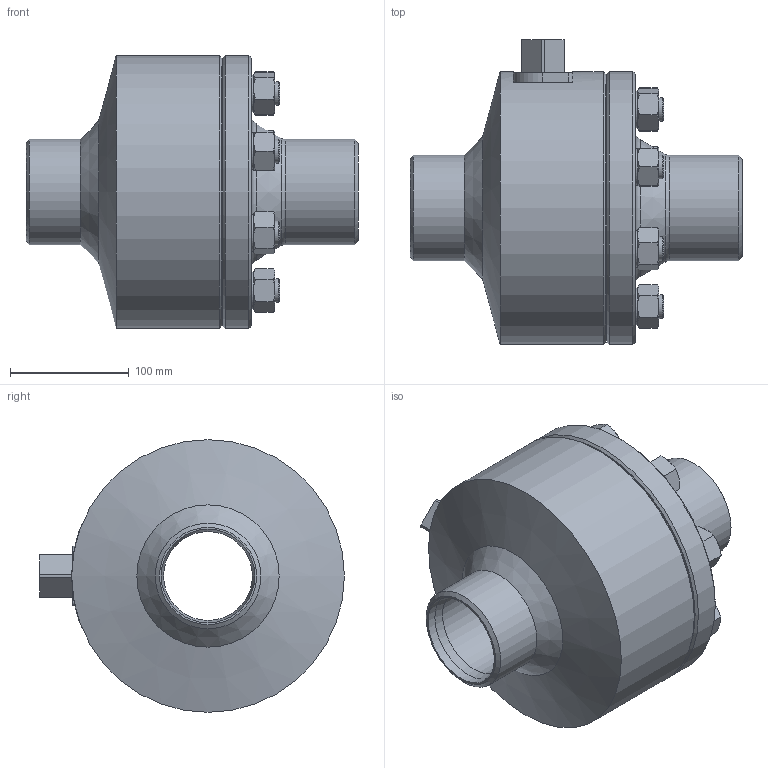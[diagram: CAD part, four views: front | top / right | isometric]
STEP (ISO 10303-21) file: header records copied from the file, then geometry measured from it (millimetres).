
FILE_DESCRIPTION((''),'2;1');
FILE_NAME('C:\Users\Bartek\Desktop\Nowy folder (2)\Nowy folder (22)\WK5b\WK5bc DN80 PN100_Substitute_1.stp','2024-09-17T09:48:49',('Bartek'),(''),'Autodesk Inventor 2012','Autodesk Inventor 2012','');
FILE_SCHEMA(('AUTOMOTIVE_DESIGN { 1 0 10303 214 1 1 1 1 }'));
Length unit declared in the file: millimetre
Products named in the file (1): WK5bc DN80 PN100_Substitute_1
Bounding box: 280 x 257 x 230 mm (x, y, z)
Volume: 5028844.2 mm3; surface area: 326746.3 mm2
Topology: 1 solids, 1 shells, 241 faces, 515 edges, 305 vertices
Faces by surface type: cone 114, plane 93, cylinder 32, torus 2
Full cylindrical faces by diameter (mm): 20 x8, 31 x8, 75 x1, 78.9 x2, 88.9 x2, 156 x1, 230 x2
Entity records: 6193 total; most frequent: CARTESIAN_POINT 1386, DIRECTION 938, ORIENTED_EDGE 926, EDGE_CURVE 463, AXIS2_PLACEMENT_3D 425, EDGE_LOOP 316, VERTEX_POINT 297, STYLED_ITEM 242
